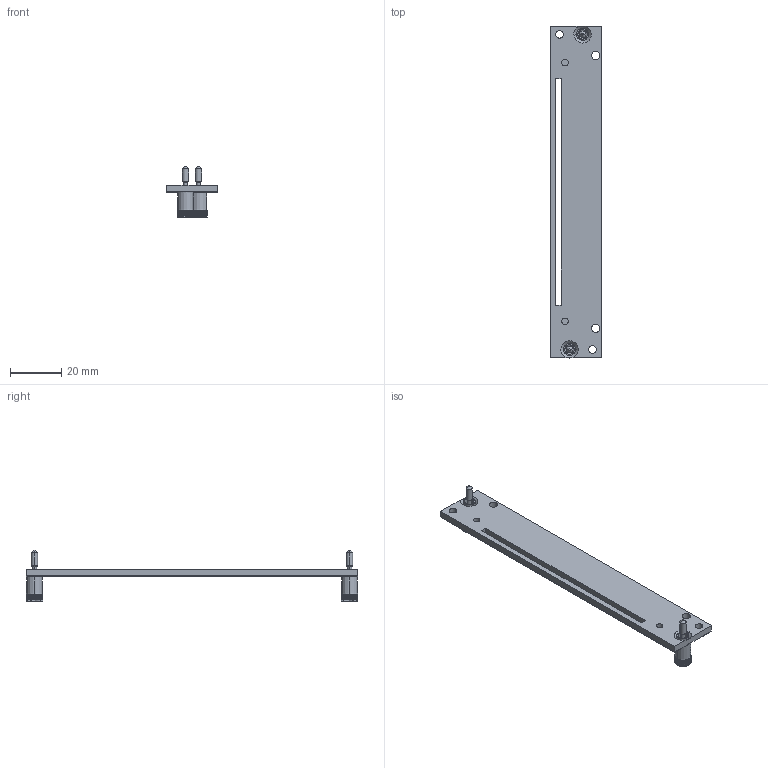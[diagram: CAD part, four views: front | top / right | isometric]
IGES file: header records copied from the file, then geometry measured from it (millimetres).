
Start section:  PTC IGES file: cu_pxi-795xr.igs
Global section: file name: cu_pxi-795xr.igs; native system: Pro/ENGINEER by Parametric Technology Corporation; preprocessor: 2006300; author: chrisj; organization: Unknown; date: 20090603.092309; units: inch
Bounding box: 20.02 x 129.02 x 20 mm (x, y, z)
Surface area: 7377.1 mm2 (no closed solid volume)
Topology: 0 solids, 0 shells, 466 faces, 2444 edges, 2440 vertices
Faces by surface type: bspline 358, revolution 76, extrusion 32
